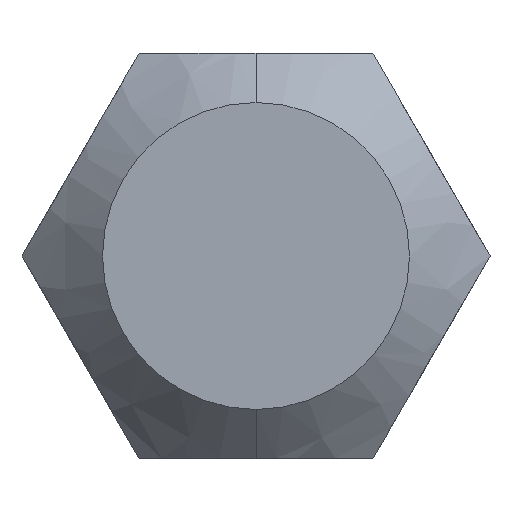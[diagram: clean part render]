
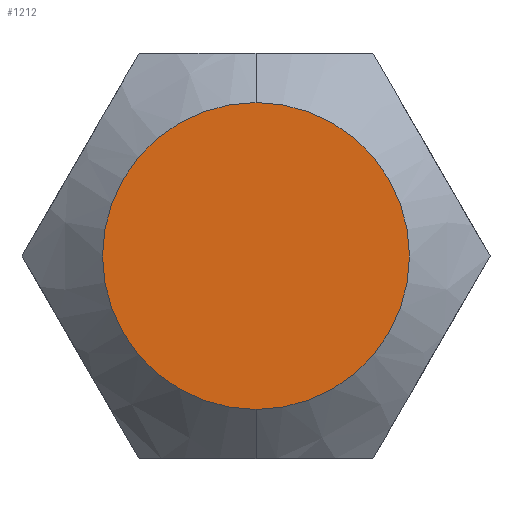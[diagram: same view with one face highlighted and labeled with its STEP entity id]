
A CAD part, front view. The second image highlights one B-rep face of the part: STEP entity #1212.
In plain terms, the highlighted planar face has unit normal (0, -1, 0).
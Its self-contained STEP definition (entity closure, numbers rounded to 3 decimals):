
#129 = ORIENTED_EDGE ( 'NONE', *, *, #1313, .T. ) ;
#134 = ORIENTED_EDGE ( 'NONE', *, *, #1892, .T. ) ;
#591 = CARTESIAN_POINT ( 'NONE',  ( -3.66, -14., 0. ) ) ;
#593 = PLANE ( 'NONE',  #1339 ) ;
#596 = DIRECTION ( 'NONE',  ( 0., 1., 0. ) ) ;
#597 = DIRECTION ( 'NONE',  ( 0., 0., 1. ) ) ;
#627 = CARTESIAN_POINT ( 'NONE',  ( 0., -14., 2.4 ) ) ;
#636 = CARTESIAN_POINT ( 'NONE',  ( 0., -14., -2.4 ) ) ;
#662 = CARTESIAN_POINT ( 'NONE',  ( 0., -14., 0. ) ) ;
#664 = DIRECTION ( 'NONE',  ( 0., -1., 0. ) ) ;
#665 = DIRECTION ( 'NONE',  ( 0., 0., -1. ) ) ;
#778 = CARTESIAN_POINT ( 'NONE',  ( 0., -14., 0. ) ) ;
#779 = DIRECTION ( 'NONE',  ( 0., -1., 0. ) ) ;
#780 = DIRECTION ( 'NONE',  ( 0., 0., -1. ) ) ;
#1212 = ADVANCED_FACE ( 'NONE', ( #1586 ), #593, .F. ) ;
#1243 = VERTEX_POINT ( 'NONE', #627 ) ;
#1252 = VERTEX_POINT ( 'NONE', #636 ) ;
#1313 = EDGE_CURVE ( 'NONE', #1243, #1252, #1599, .T. ) ;
#1339 = AXIS2_PLACEMENT_3D ( 'NONE', #591, #596, #597 ) ;
#1381 = AXIS2_PLACEMENT_3D ( 'NONE', #662, #664, #665 ) ;
#1386 = AXIS2_PLACEMENT_3D ( 'NONE', #778, #779, #780 ) ;
#1586 = FACE_OUTER_BOUND ( 'NONE', #1960, .T. ) ;
#1599 = CIRCLE ( 'NONE', #1381, 2.4 ) ;
#1638 = CIRCLE ( 'NONE', #1386, 2.4 ) ;
#1892 = EDGE_CURVE ( 'NONE', #1252, #1243, #1638, .T. ) ;
#1960 = EDGE_LOOP ( 'NONE', ( #129, #134 ) ) ;
